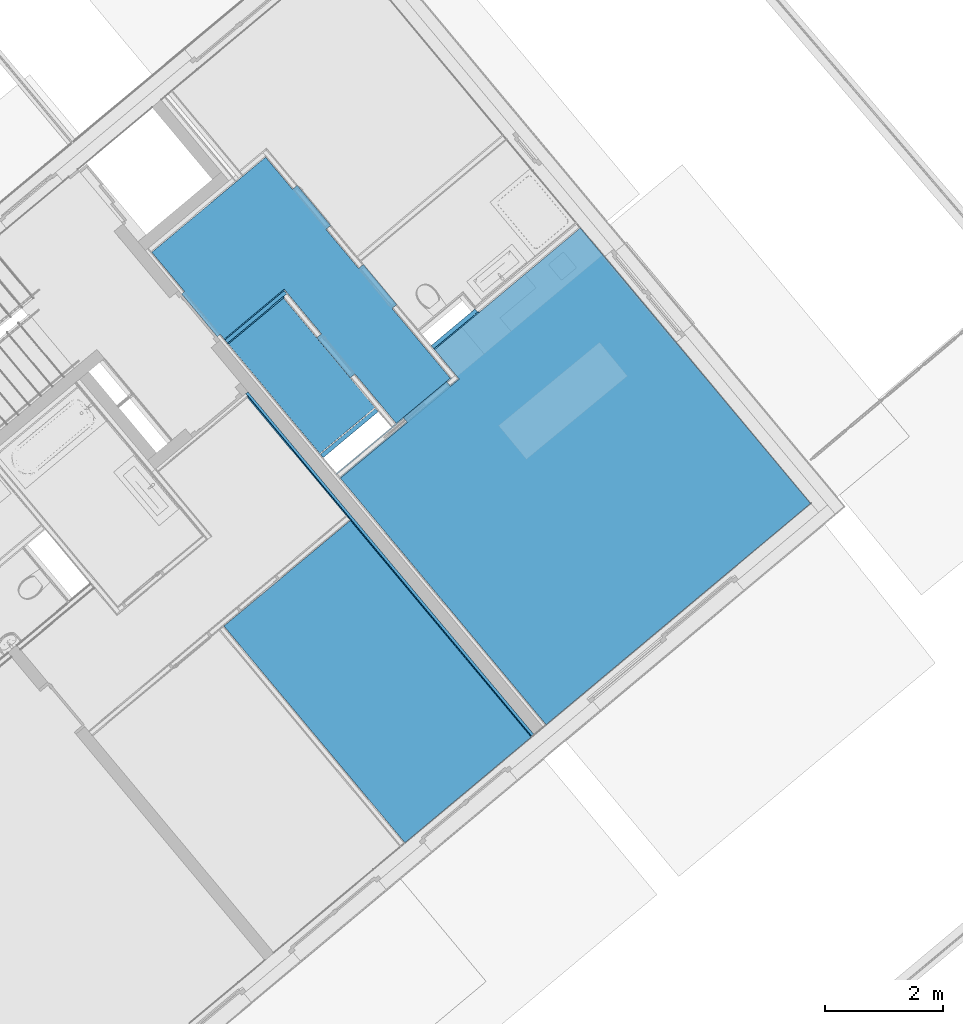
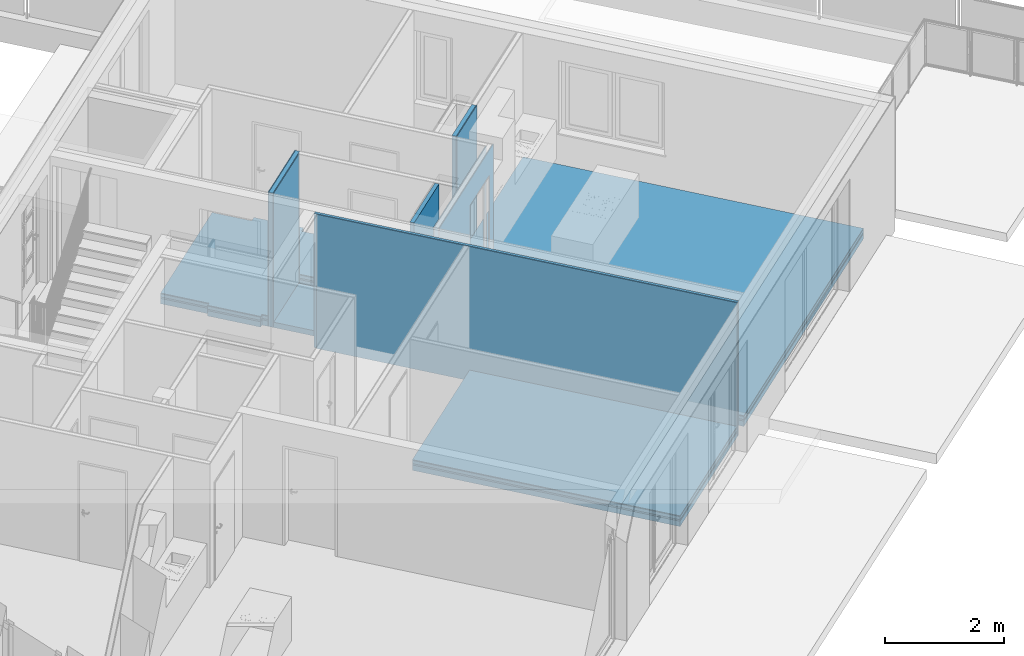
# One storey, part 37 of 75: 21 building element parts, 1 opening, 9 elements without a shape of their own, plus 2 elements that do not belong to this part.
"""IFC4 building model written with IfcOpenShell, lengths in metres."""

from ifc_helpers import new_model, entity, si_unit, converted_unit, derived_unit, direction, frame, origin_with_axes, place, context, subcontext, project, spatial, polygons, material, type_object, element, aggregate, save


model = new_model("IFC4")

# Units and contexts
model_context = context("Model", 3, precision=1e-05, world=origin_with_axes(), true_north=direction((0.0, 1.0)))
body_context = subcontext(model_context, "Body", "Model", "MODEL_VIEW")
ifc_project = project(units=[si_unit("LENGTHUNIT", "METRE"), si_unit("AREAUNIT", "SQUARE_METRE"), si_unit("VOLUMEUNIT", "CUBIC_METRE"), converted_unit("PLANEANGLEUNIT", "DEGREE", entity("IfcPlaneAngleMeasure", 0.0174532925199), si_unit("PLANEANGLEUNIT", "RADIAN"), dimensions=[0, 0, 0, 0, 0, 0, 0]), converted_unit("TIMEUNIT", "Year", entity("IfcTimeMeasure", 31556926.0), si_unit("TIMEUNIT", "SECOND"), dimensions=[0, 0, 1, 0, 0, 0, 0]), si_unit("MASSUNIT", "GRAM", prefix="KILO"), si_unit("THERMODYNAMICTEMPERATUREUNIT", "DEGREE_CELSIUS"), si_unit("LUMINOUSINTENSITYUNIT", "LUMEN"), si_unit("ENERGYUNIT", "JOULE", prefix="MEGA"), derived_unit("THERMALCONDUCTANCEUNIT", [(si_unit("POWERUNIT", "WATT"), 1), (si_unit("LENGTHUNIT", "METRE"), -1), (si_unit("THERMODYNAMICTEMPERATUREUNIT", "KELVIN"), -1)]), derived_unit("SPECIFICHEATCAPACITYUNIT", [(si_unit("ENERGYUNIT", "JOULE"), 1), (si_unit("MASSUNIT", "GRAM", prefix="KILO"), -1), (si_unit("THERMODYNAMICTEMPERATUREUNIT", "KELVIN"), -1)]), derived_unit("MASSDENSITYUNIT", [(si_unit("MASSUNIT", "GRAM", prefix="KILO"), 1), (si_unit("VOLUMEUNIT", "CUBIC_METRE"), -1)])], contexts=[model_context])

# Site, building, storey
site_placement = place(None, frame((-0.00153261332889, -0.00661245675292, 0.0), z_axis=(0.0, 0.0, 1.0), x_axis=(1.0, 0.0, 0.0)))
site = spatial("IfcSite", under=ifc_project, at=site_placement, Name="Gelände", CompositionType="ELEMENT")
building_placement = place(site_placement, origin_with_axes())
building = spatial("IfcBuilding", under=site, at=building_placement, Name="Gebäude", CompositionType="ELEMENT")
storey_placement = place(building_placement, frame((0.0, 0.0, -0.22), z_axis=(0.0, 0.0, 1.0), x_axis=(1.0, 0.0, 0.0)))
storey = spatial("IfcBuildingStorey", under=building, at=storey_placement, Name="EG", CompositionType="ELEMENT", Elevation=-0.22)

# Wall, building element parts
wall_type_1 = type_object("IfcWallType", Name="LB 6,5 cm einfach Vorsatzschale 65", PredefinedType="NOTDEFINED")
wall_1_placement = place(storey_placement, frame((3.22700750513, 22.1386079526, 0.0), z_axis=(0.0, 0.0, 1.0), x_axis=(0.640845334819, -0.767670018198, 0.0)))
wall_1 = element("IfcWall", 1, at=wall_1_placement, inside=storey, type_object=wall_type_1, Name="Wand-005", PredefinedType="NOTDEFINED")
ifc_material_1 = material(Name="Mineralwolle weich")
building_element_part_1_placement = place(wall_1_placement, origin_with_axes())
building_element_part_1 = element("IfcBuildingElementPart", 2, at=building_element_part_1_placement, material=ifc_material_1, Name="Mineralwolle weich", PredefinedType="NOTDEFINED", context=body_context, shape_type="Tessellation", body=[
    polygons([(-0.0650000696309, 0.065, 2.76), (7.53296611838, 0.065, 2.76), (7.53296611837, 0.065, 0.0), (-0.0650000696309, 0.065, 0.0), (7.5330224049, 0.015, 2.76), (-0.0650000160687, 0.015, 2.76), (7.53302240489, 0.015, 0.0), (-0.0650000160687, 0.015, 0.0)], [[[1, 2, 3, 4]], [[5, 2, 1, 6]], [[2, 5, 7, 3]], [[4, 3, 7, 8]], [[6, 1, 4, 8]], [[5, 6, 8, 7]]], closed=True),
])
ifc_material_2 = material(Name="Gipskarton")
building_element_part_2_placement = place(wall_1_placement, origin_with_axes())
building_element_part_2 = element("IfcBuildingElementPart", 3, at=building_element_part_2_placement, material=ifc_material_2, Name="Gipskarton", PredefinedType="NOTDEFINED", context=body_context, shape_type="Tessellation", body=[
    polygons([(-0.0150000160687, 0.015, 2.76), (7.5330224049, 0.015, 2.76), (7.53302240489, 0.015, 0.0), (-0.0150000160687, 0.015, 0.0), (7.53303929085, 0.0, 2.76), (-0.015, 0.0, 2.76), (7.53303929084, 0.0, 0.0), (-0.015, 0.0, 0.0)], [[[1, 2, 3, 4]], [[5, 2, 1, 6]], [[2, 5, 7, 3]], [[4, 3, 7, 8]], [[6, 1, 4, 8]], [[5, 6, 8, 7]]], closed=True),
])
aggregate(wall_1, [building_element_part_1, building_element_part_2])

wall_type_2 = type_object("IfcWallType", Name="LB 9,0 cm einfache Vorsatzschale  90", PredefinedType="NOTDEFINED")
wall_2_placement = place(storey_placement, frame((6.35108165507, 23.0169179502, 0.0), z_axis=(0.0, 0.0, 1.0), x_axis=(0.767365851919, 0.641209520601, 0.0)))
wall_2 = element("IfcWall", 4, at=wall_2_placement, inside=storey, type_object=wall_type_2, Name="Wand-006", PredefinedType="NOTDEFINED")
building_element_part_3_placement = place(wall_2_placement, origin_with_axes())
building_element_part_3 = element("IfcBuildingElementPart", 5, at=building_element_part_3_placement, material=ifc_material_1, Name="Mineralwolle weich", PredefinedType="NOTDEFINED", context=body_context, shape_type="Tessellation", body=[
    polygons([(0.971380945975, 0.0, 2.76), (0.971201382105, -0.075, 2.76), (0.971201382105, -0.075, 0.0), (0.971380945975, 0.0, 0.0), (0.0, -0.075, 2.76), (0.896380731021, 0.0, 2.76), (0.0, 0.0, 2.76), (0.0, -0.075, 0.0), (0.0, 0.0, 0.0)], [[[1, 2, 3, 4]], [[5, 2, 1, 6, 7]], [[2, 5, 8, 3]], [[4, 3, 8, 9]], [[6, 1, 4, 9, 7]], [[5, 7, 9, 8]]], closed=True),
])
building_element_part_4_placement = place(wall_2_placement, origin_with_axes())
building_element_part_4 = element("IfcBuildingElementPart", 6, at=building_element_part_4_placement, material=ifc_material_2, Name="Gipskarton", PredefinedType="NOTDEFINED", context=body_context, shape_type="Tessellation", body=[
    polygons([(0.986201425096, -0.075, 2.76), (0.986165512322, -0.09, 2.76), (0.986165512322, -0.09, 0.0), (0.986201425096, -0.075, 0.0), (0.0, -0.09, 2.76), (0.0, -0.075, 2.76), (0.0, -0.09, 0.0), (0.0, -0.075, 0.0)], [[[1, 2, 3, 4]], [[5, 2, 1, 6]], [[2, 5, 7, 3]], [[4, 3, 7, 8]], [[6, 1, 4, 8]], [[5, 6, 8, 7]]], closed=True),
])
aggregate(wall_2, [building_element_part_3, building_element_part_4])

# Wall, opening, building element parts
wall_type_3 = type_object("IfcWallType", Name="IW LB 01 Leichtbautrennwand einfach 10,5 cm 105", PredefinedType="NOTDEFINED")
wall_3_placement = place(storey_placement, frame((4.75634479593, 20.7201278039, 0.0), z_axis=(0.0, 0.0, 1.0), x_axis=(0.767768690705, 0.640727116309, 0.0)))
wall_3 = element("IfcWall", 7, at=wall_3_placement, inside=storey, type_object=wall_type_3, Name="Wand-012", PredefinedType="NOTDEFINED")
opening_placement = place(wall_3_placement, frame((2.0266659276, 0.0, 0.22), z_axis=(0.0, 0.0, 1.0), x_axis=(1.0, 0.0, 0.0)))
element("IfcOpeningElement", 8, at=opening_placement, cuts=wall_3, Name="Tür-001", context=body_context, identifier="Reference", shape_type="Tessellation", body=[
    polygons([(-0.48, -1.32747549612, -0.22), (-0.48, -1.32747549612, 2.03), (-0.48, 1.43247549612, 2.03), (-0.48, 1.43247549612, -0.22), (-0.48, 0.09, 2.0), (-0.48, 0.015, 2.0), (-0.48, 0.015, 0.0), (-0.48, 0.09, 0.0), (0.48, -1.32747549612, -0.22), (0.48, -1.32747549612, 2.03), (0.48, 1.43247549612, 2.03), (0.48, 1.43247549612, -0.22), (-1.44, 0.09, 2.0), (-1.44, 0.015, 2.0), (-1.44, 0.015, 0.0), (-1.44, 0.09, 0.0)], [[[1, 2, 3, 4], [5, 6, 7, 8]], [[1, 9, 10, 2]], [[2, 10, 11, 3]], [[11, 12, 4, 3]], [[9, 1, 4, 12]], [[6, 5, 13, 14]], [[7, 6, 14, 15]], [[8, 7, 15, 16]], [[5, 8, 16, 13]], [[10, 9, 12, 11]], [[14, 13, 16, 15]]], closed=True),
])
building_element_part_5_placement = place(wall_3_placement, origin_with_axes())
building_element_part_5 = element("IfcBuildingElementPart", 9, at=building_element_part_5_placement, material=ifc_material_2, Name="Gipskarton", PredefinedType="NOTDEFINED", context=body_context, shape_type="Tessellation", body=[
    polygons([(1.5466659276, 0.09, 0.22), (1.5466659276, 0.0899999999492, 2.25), (2.5066659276, 0.0899999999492, 2.25), (2.5066659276, 0.09, 0.22), (2.50666590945, 0.0899999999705, 0.0), (2.6064142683, 0.09, 0.0), (2.6064142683, 0.09, 2.76), (0.0649861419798, 0.0899999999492, 2.76), (0.0649861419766, 0.0899999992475, 0.0), (1.5466659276, 0.0899999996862, 0.0), (1.5466659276, 0.104999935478, 0.22), (1.5466659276, 0.105, 2.25), (2.5066659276, 0.105, 2.25), (2.5066659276, 0.104999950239, 0.22), (2.5066659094, 0.104999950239, 0.0), (2.60640484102, 0.105, 0.0), (2.60640484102, 0.105, 2.76), (1.28733376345, 0.105, 2.76), (0.0649838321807, 0.105, 2.76), (0.0649838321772, 0.104999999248, 0.0), (1.5466659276, 0.104999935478, 0.0)], [[[1, 2, 3, 4, 5, 6, 7, 8, 9, 10]], [[2, 1, 11, 12]], [[3, 2, 12, 13]], [[4, 3, 13, 14]], [[4, 14, 15, 5]], [[15, 16, 6, 5]], [[7, 6, 16, 17]], [[8, 7, 17, 18, 19]], [[19, 20, 9, 8]], [[10, 9, 20, 21]], [[11, 1, 10, 21]], [[12, 11, 21, 20, 19, 18, 17, 16, 15, 14, 13]]], closed=True),
])
building_element_part_6_placement = place(wall_3_placement, origin_with_axes())
building_element_part_6 = element("IfcBuildingElementPart", 10, at=building_element_part_6_placement, material=ifc_material_2, Name="Gipskarton", PredefinedType="NOTDEFINED", context=body_context, shape_type="Tessellation", body=[
    polygons([(1.5466659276, 0.0, 0.22), (1.5466659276, 0.0, 2.25), (2.5066659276, 0.0, 2.25), (2.5066659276, 0.0, 0.22), (2.50666590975, 0.0, 0.0), (2.6964708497, 0.0, 0.0), (2.6964708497, 0.0, 2.76), (0.0650000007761, 0.0, 2.76), (0.0650000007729, -7.52478968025e-10, 0.0), (1.5466659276, -3.28791216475e-10, 0.0), (1.5466659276, 0.0149999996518, 0.22), (1.5466659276, 0.0149999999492, 2.25), (2.5066659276, 0.0149999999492, 2.25), (2.5066659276, 0.0149999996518, 0.22), (2.5066659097, 0.0149999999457, 0.0), (2.69646142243, 0.015, 0.0), (2.69646142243, 0.015, 2.76), (0.0649976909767, 0.0149999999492, 2.76), (0.0649976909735, 0.0149999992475, 0.0), (1.5466659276, 0.0149999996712, 0.0)], [[[1, 2, 3, 4, 5, 6, 7, 8, 9, 10]], [[2, 1, 11, 12]], [[3, 2, 12, 13]], [[4, 3, 13, 14]], [[4, 14, 15, 5]], [[15, 16, 6, 5]], [[7, 6, 16, 17]], [[8, 7, 17, 18]], [[18, 19, 9, 8]], [[10, 9, 19, 20]], [[11, 1, 10, 20]], [[12, 11, 20, 19, 18, 17, 16, 15, 14, 13]]], closed=True),
])
aggregate(wall_3, [building_element_part_5, building_element_part_6])

# Wall, building element parts
wall_4_placement = place(storey_placement, frame((2.84969161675, 23.0041117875, 0.0), z_axis=(0.0, 0.0, 1.0), x_axis=(0.767365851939, 0.641209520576, 0.0)))
wall_4 = element("IfcWall", 11, at=wall_4_placement, inside=storey, type_object=wall_type_3, Name="Wand-012", PredefinedType="NOTDEFINED")
building_element_part_7_placement = place(wall_4_placement, origin_with_axes())
building_element_part_7 = element("IfcBuildingElementPart", 12, at=building_element_part_7_placement, material=ifc_material_2, Name="Gipskarton", PredefinedType="NOTDEFINED", context=body_context, shape_type="Tessellation", body=[
    polygons([(1.3909877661, 0.105, 2.76), (1.3909877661, 0.09, 2.76), (1.3909877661, 0.09, 0.0), (1.3909877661, 0.105, 0.0), (0.0650427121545, 0.0900000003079, 2.76), (0.0650498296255, 0.105000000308, 2.76), (0.0650427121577, 0.0900000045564, 0.0), (0.0650498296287, 0.105000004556, 0.0)], [[[1, 2, 3, 4]], [[5, 2, 1, 6]], [[2, 5, 7, 3]], [[3, 7, 8, 4]], [[6, 1, 4, 8]], [[5, 6, 8, 7]]], closed=True),
])
building_element_part_8_placement = place(wall_4_placement, origin_with_axes())
building_element_part_8 = element("IfcBuildingElementPart", 13, at=building_element_part_8_placement, material=ifc_material_1, Name="Mineralwolle weich", PredefinedType="NOTDEFINED", context=body_context, shape_type="Tessellation", body=[
    polygons([(1.3759877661, 0.09, 2.76), (1.3759877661, 0.015, 2.76), (1.3759877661, 0.015, 0.0), (1.3759877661, 0.09, 0.0), (0.0650071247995, 0.0150000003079, 2.76), (0.0650427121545, 0.0900000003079, 2.76), (0.0650071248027, 0.0150000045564, 0.0), (0.0650427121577, 0.0900000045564, 0.0)], [[[1, 2, 3, 4]], [[5, 2, 1, 6]], [[2, 5, 7, 3]], [[3, 7, 8, 4]], [[6, 1, 4, 8]], [[5, 6, 8, 7]]], closed=True),
])
building_element_part_9_placement = place(wall_4_placement, origin_with_axes())
building_element_part_9 = element("IfcBuildingElementPart", 14, at=building_element_part_9_placement, material=ifc_material_2, Name="Gipskarton", PredefinedType="NOTDEFINED", context=body_context, shape_type="Tessellation", body=[
    polygons([(1.3009877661, 0.015, 2.76), (1.3009877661, 0.0, 2.76), (1.3009877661, 0.0, 0.0), (1.3009877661, 0.015, 0.0), (0.0650000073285, 3.07867509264e-10, 2.76), (0.0650071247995, 0.0150000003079, 2.76), (0.0650000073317, 4.55641746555e-09, 0.0), (0.0650071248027, 0.0150000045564, 0.0)], [[[1, 2, 3, 4]], [[5, 2, 1, 6]], [[2, 5, 7, 3]], [[3, 7, 8, 4]], [[6, 1, 4, 8]], [[5, 6, 8, 7]]], closed=True),
])
aggregate(wall_4, [building_element_part_7, building_element_part_8, building_element_part_9])

# Wall, building element part
wall_5_placement = place(storey_placement, frame((4.46491081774, 21.0692371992, 0.0), z_axis=(0.0, 0.0, 1.0), x_axis=(0.767365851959, 0.641209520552, 0.0)))
wall_5 = element("IfcWall", 15, at=wall_5_placement, inside=storey, type_object=wall_type_2, Name="Wand-006", PredefinedType="NOTDEFINED")
building_element_part_10_placement = place(wall_5_placement, origin_with_axes())
building_element_part_10 = element("IfcBuildingElementPart", 16, at=building_element_part_10_placement, material=ifc_material_1, Name="Mineralwolle weich", PredefinedType="NOTDEFINED", context=body_context, shape_type="Tessellation", body=[
    polygons([(1.28718371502, 0.075, 2.76), (1.28718371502, 0.0, 2.76), (1.28718371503, 0.0, 0.0), (1.28718371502, 0.075, 0.0), (0.0650000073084, 0.0, 2.76), (0.0650355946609, 0.0750000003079, 2.76), (0.065000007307, 4.55642101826e-09, 0.0), (0.0650355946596, 0.0750000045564, 0.0)], [[[1, 2, 3, 4]], [[5, 2, 1, 6]], [[2, 5, 7, 3]], [[3, 7, 8, 4]], [[6, 1, 4, 8]], [[5, 6, 8, 7]]], closed=True),
])
aggregate(wall_5, [building_element_part_10])

# Covering, building element parts
covering_type_1 = type_object("IfcCoveringType", Name="DE 01 Decke Wohnung/Wohnung Parkett 220", PredefinedType="NOTDEFINED")
covering_1_placement = place(storey_placement, frame((4.8062497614, 20.7617750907, 0.22), z_axis=(0.0, 0.0, 1.0), x_axis=(1.0, 0.0, 0.0)))
covering_1 = element("IfcCovering", 17, at=covering_1_placement, inside=storey, type_object=covering_type_1, Name="Decke-005", PredefinedType="NOTDEFINED")
ifc_material_3 = material(Name="Parkett")
building_element_part_11_placement = place(covering_1_placement, origin_with_axes())
building_element_part_11 = element("IfcBuildingElementPart", 18, at=building_element_part_11_placement, material=ifc_material_3, Name="Parkett", PredefinedType="NOTDEFINED", context=body_context, shape_type="Tessellation", body=[
    polygons([(0.0, 0.0, -0.015), (3.5013638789, -4.19429140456, -0.015), (3.5013638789, -4.19429140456, 0.0), (0.0, 0.0, 0.0), (1.13757667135, 0.94934347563, -0.015), (1.07030040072, 1.02995917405, -0.015), (1.80735832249, 1.64505720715, -0.015), (1.87463459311, 1.56444150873, -0.015), (2.02036092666, 1.68605464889, -0.015), (1.60254077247, 2.18607990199, -0.015), (4.08241896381, 4.25826166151, -0.015), (8.00008249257, -0.43019226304, -0.015), (8.00008249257, -0.43019226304, 0.0), (1.13757667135, 0.94934347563, 0.0), (4.08241896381, 4.25826166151, 0.0), (1.60254077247, 2.18607990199, 0.0), (2.02036092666, 1.68605464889, 0.0), (1.87463459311, 1.56444150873, 0.0), (1.80735832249, 1.64505720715, 0.0), (1.07030040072, 1.02995917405, 0.0)], [[[1, 2, 3, 4]], [[2, 1, 5, 6, 7, 8, 9, 10, 11, 12]], [[2, 12, 13, 3]], [[14, 4, 3, 13, 15, 16, 17, 18, 19, 20]], [[5, 1, 4, 14]], [[6, 5, 14, 20]], [[7, 6, 20, 19]], [[8, 7, 19, 18]], [[9, 8, 18, 17]], [[10, 9, 17, 16]], [[11, 10, 16, 15]], [[12, 11, 15, 13]]], closed=True),
])
ifc_material_4 = material(Name="Estrich")
building_element_part_12_placement = place(covering_1_placement, origin_with_axes())
building_element_part_12 = element("IfcBuildingElementPart", 19, at=building_element_part_12_placement, material=ifc_material_4, Name="Estrich", PredefinedType="NOTDEFINED", context=body_context, shape_type="Tessellation", body=[
    polygons([(0.0, 0.0, -0.08), (3.5013638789, -4.19429140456, -0.08), (3.5013638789, -4.19429140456, -0.015), (0.0, 0.0, -0.015), (1.13757667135, 0.94934347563, -0.08), (1.07030040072, 1.02995917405, -0.08), (1.80735832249, 1.64505720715, -0.08), (1.87463459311, 1.56444150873, -0.08), (2.02036092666, 1.68605464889, -0.08), (1.60254077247, 2.18607990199, -0.08), (4.08241896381, 4.25826166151, -0.08), (8.00008249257, -0.43019226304, -0.08), (8.00008249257, -0.43019226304, -0.015), (1.13757667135, 0.94934347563, -0.015), (4.08241896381, 4.25826166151, -0.015), (1.60254077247, 2.18607990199, -0.015), (2.02036092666, 1.68605464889, -0.015), (1.87463459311, 1.56444150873, -0.015), (1.80735832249, 1.64505720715, -0.015), (1.07030040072, 1.02995917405, -0.015)], [[[1, 2, 3, 4]], [[2, 1, 5, 6, 7, 8, 9, 10, 11, 12]], [[2, 12, 13, 3]], [[14, 4, 3, 13, 15, 16, 17, 18, 19, 20]], [[5, 1, 4, 14]], [[6, 5, 14, 20]], [[7, 6, 20, 19]], [[8, 7, 19, 18]], [[9, 8, 18, 17]], [[10, 9, 17, 16]], [[11, 10, 16, 15]], [[12, 11, 15, 13]]], closed=True),
])
ifc_material_5 = material(Name="Trittschalldämmung")
building_element_part_13_placement = place(covering_1_placement, origin_with_axes())
building_element_part_13 = element("IfcBuildingElementPart", 20, at=building_element_part_13_placement, material=ifc_material_5, Name="Trittschalldämmung", PredefinedType="NOTDEFINED", context=body_context, shape_type="Tessellation", body=[
    polygons([(0.0, 0.0, -0.11), (3.5013638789, -4.19429140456, -0.11), (3.5013638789, -4.19429140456, -0.08), (0.0, 0.0, -0.08), (1.13757667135, 0.94934347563, -0.11), (1.07030040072, 1.02995917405, -0.11), (1.80735832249, 1.64505720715, -0.11), (1.87463459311, 1.56444150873, -0.11), (2.02036092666, 1.68605464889, -0.11), (1.60254077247, 2.18607990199, -0.11), (4.08241896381, 4.25826166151, -0.11), (8.00008249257, -0.43019226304, -0.11), (8.00008249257, -0.43019226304, -0.08), (1.13757667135, 0.94934347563, -0.08), (4.08241896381, 4.25826166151, -0.08), (1.60254077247, 2.18607990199, -0.08), (2.02036092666, 1.68605464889, -0.08), (1.87463459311, 1.56444150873, -0.08), (1.80735832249, 1.64505720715, -0.08), (1.07030040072, 1.02995917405, -0.08)], [[[1, 2, 3, 4]], [[2, 1, 5, 6, 7, 8, 9, 10, 11, 12]], [[2, 12, 13, 3]], [[14, 4, 3, 13, 15, 16, 17, 18, 19, 20]], [[5, 1, 4, 14]], [[6, 5, 14, 20]], [[7, 6, 20, 19]], [[8, 7, 19, 18]], [[9, 8, 18, 17]], [[10, 9, 17, 16]], [[11, 10, 16, 15]], [[12, 11, 15, 13]]], closed=True),
])
ifc_material_6 = material(Name="Schüttung")
building_element_part_14_placement = place(covering_1_placement, origin_with_axes())
building_element_part_14 = element("IfcBuildingElementPart", 21, at=building_element_part_14_placement, material=ifc_material_6, Name="Schüttung", PredefinedType="NOTDEFINED", context=body_context, shape_type="Tessellation", body=[
    polygons([(0.0, 0.0, -0.11), (0.0, 0.0, -0.22), (3.5013638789, -4.19429140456, -0.22), (3.5013638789, -4.19429140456, -0.11), (1.13757667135, 0.94934347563, -0.11), (1.13757667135, 0.94934347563, -0.22), (1.07030040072, 1.02995917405, -0.22), (1.80735832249, 1.64505720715, -0.22), (1.87463459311, 1.56444150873, -0.22), (2.02036092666, 1.68605464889, -0.22), (1.60254077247, 2.18607990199, -0.22), (4.08241896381, 4.25826166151, -0.22), (8.00008249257, -0.43019226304, -0.22), (8.00008249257, -0.43019226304, -0.11), (4.08241896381, 4.25826166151, -0.11), (1.60254077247, 2.18607990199, -0.11), (2.02036092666, 1.68605464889, -0.11), (1.87463459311, 1.56444150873, -0.11), (1.80735832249, 1.64505720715, -0.11), (1.07030040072, 1.02995917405, -0.11)], [[[1, 2, 3, 4]], [[5, 6, 2, 1]], [[3, 2, 6, 7, 8, 9, 10, 11, 12, 13]], [[4, 3, 13, 14]], [[5, 1, 4, 14, 15, 16, 17, 18, 19, 20]], [[20, 7, 6, 5]], [[19, 8, 7, 20]], [[18, 9, 8, 19]], [[17, 10, 9, 18]], [[16, 11, 10, 17]], [[15, 12, 11, 16]], [[14, 13, 12, 15]]], closed=True),
])
aggregate(covering_1, [building_element_part_11, building_element_part_12, building_element_part_13, building_element_part_14])

covering_2_placement = place(storey_placement, frame((2.82455205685, 18.2460213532, 0.22), z_axis=(0.0, 0.0, 1.0), x_axis=(1.0, 0.0, 0.0)))
covering_2 = element("IfcCovering", 22, at=covering_2_placement, inside=storey, type_object=covering_type_1, Name="Decke-006", PredefinedType="NOTDEFINED")
building_element_part_15_placement = place(covering_2_placement, origin_with_axes())
building_element_part_15 = element("IfcBuildingElementPart", 23, at=building_element_part_15_placement, material=ifc_material_3, Name="Parkett", PredefinedType="NOTDEFINED", context=body_context, shape_type="Tessellation", body=[
    polygons([(3.08157788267, -3.68787044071, -0.015), (3.08157788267, -3.68787044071, 0.0), (0.0, 0.0, 0.0), (0.0, 0.0, -0.015), (5.22996853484, -1.89030181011, -0.015), (5.22996853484, -1.89030181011, 0.0), (2.15130959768, 1.79763041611, 0.0), (2.15130959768, 1.79763041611, -0.015)], [[[1, 2, 3, 4]], [[5, 6, 2, 1]], [[3, 2, 6, 7]], [[4, 3, 7, 8]], [[4, 8, 5, 1]], [[8, 7, 6, 5]]], closed=True),
])
building_element_part_16_placement = place(covering_2_placement, origin_with_axes())
building_element_part_16 = element("IfcBuildingElementPart", 24, at=building_element_part_16_placement, material=ifc_material_4, Name="Estrich", PredefinedType="NOTDEFINED", context=body_context, shape_type="Tessellation", body=[
    polygons([(3.08157788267, -3.68787044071, -0.08), (3.08157788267, -3.68787044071, -0.015), (0.0, 0.0, -0.015), (0.0, 0.0, -0.08), (5.22996853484, -1.89030181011, -0.08), (5.22996853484, -1.89030181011, -0.015), (2.15130959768, 1.79763041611, -0.015), (2.15130959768, 1.79763041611, -0.08)], [[[1, 2, 3, 4]], [[5, 6, 2, 1]], [[3, 2, 6, 7]], [[4, 3, 7, 8]], [[4, 8, 5, 1]], [[8, 7, 6, 5]]], closed=True),
])
building_element_part_17_placement = place(covering_2_placement, origin_with_axes())
building_element_part_17 = element("IfcBuildingElementPart", 25, at=building_element_part_17_placement, material=ifc_material_5, Name="Trittschalldämmung", PredefinedType="NOTDEFINED", context=body_context, shape_type="Tessellation", body=[
    polygons([(3.08157788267, -3.68787044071, -0.11), (3.08157788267, -3.68787044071, -0.08), (0.0, 0.0, -0.08), (0.0, 0.0, -0.11), (5.22996853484, -1.89030181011, -0.11), (5.22996853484, -1.89030181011, -0.08), (2.15130959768, 1.79763041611, -0.08), (2.15130959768, 1.79763041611, -0.11)], [[[1, 2, 3, 4]], [[5, 6, 2, 1]], [[3, 2, 6, 7]], [[4, 3, 7, 8]], [[4, 8, 5, 1]], [[8, 7, 6, 5]]], closed=True),
])
building_element_part_18_placement = place(covering_2_placement, origin_with_axes())
building_element_part_18 = element("IfcBuildingElementPart", 26, at=building_element_part_18_placement, material=ifc_material_6, Name="Schüttung", PredefinedType="NOTDEFINED", context=body_context, shape_type="Tessellation", body=[
    polygons([(0.0, 0.0, -0.22), (3.08157788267, -3.68787044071, -0.22), (3.08157788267, -3.68787044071, -0.11), (0.0, 0.0, -0.11), (2.15130959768, 1.79763041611, -0.22), (5.22996853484, -1.89030181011, -0.22), (5.22996853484, -1.89030181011, -0.11), (2.15130959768, 1.79763041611, -0.11)], [[[1, 2, 3, 4]], [[1, 5, 6, 2]], [[2, 6, 7, 3]], [[4, 3, 7, 8]], [[5, 1, 4, 8]], [[6, 5, 8, 7]]], closed=True),
])
aggregate(covering_2, [building_element_part_15, building_element_part_16, building_element_part_17, building_element_part_18])

covering_type_2 = type_object("IfcCoveringType", Name="DE 01 Decke Wohnung/Wohnung Fließen 220", PredefinedType="NOTDEFINED")
covering_3_placement = place(storey_placement, frame((3.53540854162, 26.2228144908, 0.22), z_axis=(0.0, 0.0, 1.0), x_axis=(1.0, 0.0, 0.0)))
covering_3 = element("IfcCovering", 27, at=covering_3_placement, inside=storey, type_object=covering_type_2, Name="Decke-001", PredefinedType="NOTDEFINED")
ifc_material_7 = material(Name="Fliesen")
building_element_part_19_placement = place(covering_3_placement, origin_with_axes())
building_element_part_19 = element("IfcBuildingElementPart", 28, at=building_element_part_19_placement, material=ifc_material_7, Name="Fliesen", PredefinedType="NOTDEFINED", context=body_context, shape_type="Tessellation", body=[
    polygons([(0.0, 0.0, -0.015), (-1.93687654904, -1.61850734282, -0.015), (-1.93687654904, -1.61850734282, 0.0), (0.0, 0.0, 0.0), (0.456545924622, -0.546370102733, -0.015), (0.53711933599, -0.479043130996, -0.015), (1.10779579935, -1.16199873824, -0.015), (1.02722238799, -1.22932570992, -0.015), (1.58063062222, -1.89161567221, -0.015), (1.66120403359, -1.8242886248, -0.015), (2.23188049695, -2.50724423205, -0.015), (2.15130708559, -2.57457127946, -0.015), (3.1432594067, -3.76168765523, -0.015), (2.22264850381, -4.52996639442, -0.015), (1.5196247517, -3.68862254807, -0.015), (1.43905209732, -3.75594898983, -0.015), (0.86837563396, -3.07299338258, -0.015), (0.948949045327, -3.00566633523, -0.015), (0.314352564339, -2.24621466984, -0.015), (-0.703126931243, -3.09641874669, -0.015), (-0.771194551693, -3.01488031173, -0.015), (-0.821093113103, -3.05653529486, -0.015), (-1.4298961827, -2.32724879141, -0.015), (-1.37999762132, -2.28559380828, -0.015), (-1.37999762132, -2.28559380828, 0.0), (0.456545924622, -0.546370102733, 0.0), (-1.4298961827, -2.32724879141, 0.0), (-0.821093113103, -3.05653529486, 0.0), (-0.771194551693, -3.01488031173, 0.0), (-0.703126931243, -3.09641874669, 0.0), (0.314352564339, -2.24621466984, 0.0), (0.948949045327, -3.00566633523, 0.0), (0.86837563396, -3.07299338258, 0.0), (1.43905209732, -3.75594898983, 0.0), (1.5196247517, -3.68862254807, 0.0), (2.22264850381, -4.52996639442, 0.0), (3.1432594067, -3.76168765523, 0.0), (2.15130708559, -2.57457127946, 0.0), (2.23188049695, -2.50724423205, 0.0), (1.66120403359, -1.8242886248, 0.0), (1.58063062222, -1.89161567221, 0.0), (1.02722238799, -1.22932570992, 0.0), (1.10779579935, -1.16199873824, 0.0), (0.53711933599, -0.479043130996, 0.0)], [[[1, 2, 3, 4]], [[2, 1, 5, 6, 7, 8, 9, 10, 11, 12, 13, 14, 15, 16, 17, 18, 19, 20, 21, 22, 23, 24]], [[2, 24, 25, 3]], [[26, 4, 3, 25, 27, 28, 29, 30, 31, 32, 33, 34, 35, 36, 37, 38, 39, 40, 41, 42, 43, 44]], [[5, 1, 4, 26]], [[6, 5, 26, 44]], [[7, 6, 44, 43]], [[8, 7, 43, 42]], [[9, 8, 42, 41]], [[10, 9, 41, 40]], [[11, 10, 40, 39]], [[12, 11, 39, 38]], [[13, 12, 38, 37]], [[14, 13, 37, 36]], [[15, 14, 36, 35]], [[16, 15, 35, 34]], [[17, 16, 34, 33]], [[18, 17, 33, 32]], [[19, 18, 32, 31]], [[20, 19, 31, 30]], [[21, 20, 30, 29]], [[22, 21, 29, 28]], [[23, 22, 28, 27]], [[24, 23, 27, 25]]], closed=True),
])
building_element_part_20_placement = place(covering_3_placement, origin_with_axes())
building_element_part_20 = element("IfcBuildingElementPart", 29, at=building_element_part_20_placement, material=ifc_material_4, Name="Estrich", PredefinedType="NOTDEFINED", context=body_context, shape_type="Tessellation", body=[
    polygons([(0.0, 0.0, -0.08), (-1.93687654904, -1.61850734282, -0.08), (-1.93687654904, -1.61850734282, -0.015), (0.0, 0.0, -0.015), (0.456545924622, -0.546370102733, -0.08), (0.53711933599, -0.479043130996, -0.08), (1.10779579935, -1.16199873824, -0.08), (1.02722238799, -1.22932570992, -0.08), (1.58063062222, -1.89161567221, -0.08), (1.66120403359, -1.8242886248, -0.08), (2.23188049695, -2.50724423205, -0.08), (2.15130708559, -2.57457127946, -0.08), (3.1432594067, -3.76168765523, -0.08), (2.22264850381, -4.52996639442, -0.08), (1.5196247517, -3.68862254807, -0.08), (1.43905209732, -3.75594898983, -0.08), (0.86837563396, -3.07299338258, -0.08), (0.948949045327, -3.00566633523, -0.08), (0.314352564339, -2.24621466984, -0.08), (-0.703126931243, -3.09641874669, -0.08), (-0.771194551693, -3.01488031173, -0.08), (-0.821093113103, -3.05653529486, -0.08), (-1.4298961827, -2.32724879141, -0.08), (-1.37999762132, -2.28559380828, -0.08), (-1.37999762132, -2.28559380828, -0.015), (0.456545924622, -0.546370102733, -0.015), (-1.4298961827, -2.32724879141, -0.015), (-0.821093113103, -3.05653529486, -0.015), (-0.771194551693, -3.01488031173, -0.015), (-0.703126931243, -3.09641874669, -0.015), (0.314352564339, -2.24621466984, -0.015), (0.948949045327, -3.00566633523, -0.015), (0.86837563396, -3.07299338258, -0.015), (1.43905209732, -3.75594898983, -0.015), (1.5196247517, -3.68862254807, -0.015), (2.22264850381, -4.52996639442, -0.015), (3.1432594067, -3.76168765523, -0.015), (2.15130708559, -2.57457127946, -0.015), (2.23188049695, -2.50724423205, -0.015), (1.66120403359, -1.8242886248, -0.015), (1.58063062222, -1.89161567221, -0.015), (1.02722238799, -1.22932570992, -0.015), (1.10779579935, -1.16199873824, -0.015), (0.53711933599, -0.479043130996, -0.015)], [[[1, 2, 3, 4]], [[2, 1, 5, 6, 7, 8, 9, 10, 11, 12, 13, 14, 15, 16, 17, 18, 19, 20, 21, 22, 23, 24]], [[2, 24, 25, 3]], [[26, 4, 3, 25, 27, 28, 29, 30, 31, 32, 33, 34, 35, 36, 37, 38, 39, 40, 41, 42, 43, 44]], [[5, 1, 4, 26]], [[6, 5, 26, 44]], [[7, 6, 44, 43]], [[8, 7, 43, 42]], [[9, 8, 42, 41]], [[10, 9, 41, 40]], [[11, 10, 40, 39]], [[12, 11, 39, 38]], [[13, 12, 38, 37]], [[14, 13, 37, 36]], [[15, 14, 36, 35]], [[16, 15, 35, 34]], [[17, 16, 34, 33]], [[18, 17, 33, 32]], [[19, 18, 32, 31]], [[20, 19, 31, 30]], [[21, 20, 30, 29]], [[22, 21, 29, 28]], [[23, 22, 28, 27]], [[24, 23, 27, 25]]], closed=True),
])
building_element_part_21_placement = place(covering_3_placement, origin_with_axes())
building_element_part_21 = element("IfcBuildingElementPart", 30, at=building_element_part_21_placement, material=ifc_material_5, Name="Trittschalldämmung", PredefinedType="NOTDEFINED", context=body_context, shape_type="Tessellation", body=[
    polygons([(0.0, 0.0, -0.11), (-1.93687654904, -1.61850734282, -0.11), (-1.93687654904, -1.61850734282, -0.08), (0.0, 0.0, -0.08), (0.456545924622, -0.546370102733, -0.11), (0.53711933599, -0.479043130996, -0.11), (1.10779579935, -1.16199873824, -0.11), (1.02722238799, -1.22932570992, -0.11), (1.58063062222, -1.89161567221, -0.11), (1.66120403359, -1.8242886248, -0.11), (2.23188049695, -2.50724423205, -0.11), (2.15130708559, -2.57457127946, -0.11), (3.1432594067, -3.76168765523, -0.11), (2.22264850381, -4.52996639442, -0.11), (1.5196247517, -3.68862254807, -0.11), (1.43905209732, -3.75594898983, -0.11), (0.86837563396, -3.07299338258, -0.11), (0.948949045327, -3.00566633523, -0.11), (0.314352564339, -2.24621466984, -0.11), (-0.703126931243, -3.09641874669, -0.11), (-0.771194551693, -3.01488031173, -0.11), (-0.821093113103, -3.05653529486, -0.11), (-1.4298961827, -2.32724879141, -0.11), (-1.37999762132, -2.28559380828, -0.11), (-1.37999762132, -2.28559380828, -0.08), (0.456545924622, -0.546370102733, -0.08), (-1.4298961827, -2.32724879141, -0.08), (-0.821093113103, -3.05653529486, -0.08), (-0.771194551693, -3.01488031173, -0.08), (-0.703126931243, -3.09641874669, -0.08), (0.314352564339, -2.24621466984, -0.08), (0.948949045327, -3.00566633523, -0.08), (0.86837563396, -3.07299338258, -0.08), (1.43905209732, -3.75594898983, -0.08), (1.5196247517, -3.68862254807, -0.08), (2.22264850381, -4.52996639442, -0.08), (3.1432594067, -3.76168765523, -0.08), (2.15130708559, -2.57457127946, -0.08), (2.23188049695, -2.50724423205, -0.08), (1.66120403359, -1.8242886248, -0.08), (1.58063062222, -1.89161567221, -0.08), (1.02722238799, -1.22932570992, -0.08), (1.10779579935, -1.16199873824, -0.08), (0.53711933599, -0.479043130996, -0.08)], [[[1, 2, 3, 4]], [[2, 1, 5, 6, 7, 8, 9, 10, 11, 12, 13, 14, 15, 16, 17, 18, 19, 20, 21, 22, 23, 24]], [[2, 24, 25, 3]], [[26, 4, 3, 25, 27, 28, 29, 30, 31, 32, 33, 34, 35, 36, 37, 38, 39, 40, 41, 42, 43, 44]], [[5, 1, 4, 26]], [[6, 5, 26, 44]], [[7, 6, 44, 43]], [[8, 7, 43, 42]], [[9, 8, 42, 41]], [[10, 9, 41, 40]], [[11, 10, 40, 39]], [[12, 11, 39, 38]], [[13, 12, 38, 37]], [[14, 13, 37, 36]], [[15, 14, 36, 35]], [[16, 15, 35, 34]], [[17, 16, 34, 33]], [[18, 17, 33, 32]], [[19, 18, 32, 31]], [[20, 19, 31, 30]], [[21, 20, 30, 29]], [[22, 21, 29, 28]], [[23, 22, 28, 27]], [[24, 23, 27, 25]]], closed=True),
])
building_element_part_22_placement = place(covering_3_placement, origin_with_axes())
building_element_part_22 = element("IfcBuildingElementPart", 31, at=building_element_part_22_placement, material=ifc_material_6, Name="Schüttung", PredefinedType="NOTDEFINED", context=body_context, shape_type="Tessellation", body=[
    polygons([(0.0, 0.0, -0.11), (0.0, 0.0, -0.22), (-1.93687654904, -1.61850734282, -0.22), (-1.93687654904, -1.61850734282, -0.11), (0.456545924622, -0.546370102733, -0.11), (0.456545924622, -0.546370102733, -0.22), (0.53711933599, -0.479043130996, -0.22), (1.10779579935, -1.16199873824, -0.22), (1.02722238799, -1.22932570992, -0.22), (1.58063062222, -1.89161567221, -0.22), (1.66120403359, -1.8242886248, -0.22), (2.23188049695, -2.50724423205, -0.22), (2.15130708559, -2.57457127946, -0.22), (3.1432594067, -3.76168765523, -0.22), (2.22264850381, -4.52996639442, -0.22), (1.5196247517, -3.68862254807, -0.22), (1.43905209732, -3.75594898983, -0.22), (0.86837563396, -3.07299338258, -0.22), (0.948949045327, -3.00566633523, -0.22), (0.314352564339, -2.24621466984, -0.22), (-0.703126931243, -3.09641874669, -0.22), (-0.771194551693, -3.01488031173, -0.22), (-0.821093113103, -3.05653529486, -0.22), (-1.4298961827, -2.32724879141, -0.22), (-1.37999762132, -2.28559380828, -0.22), (-1.37999762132, -2.28559380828, -0.11), (-1.4298961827, -2.32724879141, -0.11), (-0.821093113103, -3.05653529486, -0.11), (-0.771194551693, -3.01488031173, -0.11), (-0.703126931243, -3.09641874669, -0.11), (0.314352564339, -2.24621466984, -0.11), (0.948949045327, -3.00566633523, -0.11), (0.86837563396, -3.07299338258, -0.11), (1.43905209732, -3.75594898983, -0.11), (1.5196247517, -3.68862254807, -0.11), (2.22264850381, -4.52996639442, -0.11), (3.1432594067, -3.76168765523, -0.11), (2.15130708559, -2.57457127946, -0.11), (2.23188049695, -2.50724423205, -0.11), (1.66120403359, -1.8242886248, -0.11), (1.58063062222, -1.89161567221, -0.11), (1.02722238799, -1.22932570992, -0.11), (1.10779579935, -1.16199873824, -0.11), (0.53711933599, -0.479043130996, -0.11)], [[[1, 2, 3, 4]], [[5, 6, 2, 1]], [[3, 2, 6, 7, 8, 9, 10, 11, 12, 13, 14, 15, 16, 17, 18, 19, 20, 21, 22, 23, 24, 25]], [[4, 3, 25, 26]], [[5, 1, 4, 26, 27, 28, 29, 30, 31, 32, 33, 34, 35, 36, 37, 38, 39, 40, 41, 42, 43, 44]], [[44, 7, 6, 5]], [[43, 8, 7, 44]], [[42, 9, 8, 43]], [[41, 10, 9, 42]], [[40, 11, 10, 41]], [[39, 12, 11, 40]], [[38, 13, 12, 39]], [[37, 14, 13, 38]], [[36, 15, 14, 37]], [[35, 16, 15, 36]], [[34, 17, 16, 35]], [[33, 18, 17, 34]], [[32, 19, 18, 33]], [[31, 20, 19, 32]], [[30, 21, 20, 31]], [[29, 22, 21, 30]], [[28, 23, 22, 29]], [[27, 24, 23, 28]], [[26, 25, 24, 27]]], closed=True),
])
aggregate(covering_3, [building_element_part_19, building_element_part_20, building_element_part_21, building_element_part_22])

# Covering, building element part
covering_4_placement = place(storey_placement, frame((2.89957040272, 23.0457904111, 0.22), z_axis=(0.0, 0.0, 1.0), x_axis=(1.0, 0.0, 0.0)))
covering_4 = element("IfcCovering", 32, at=covering_4_placement, inside=storey, type_object=covering_type_2, Name="Decke-001", PredefinedType="NOTDEFINED")
building_element_part_23_placement = place(covering_4_placement, origin_with_axes())
building_element_part_23 = element("IfcBuildingElementPart", 33, at=building_element_part_23_placement, material=ifc_material_6, Name="Schüttung", PredefinedType="NOTDEFINED", context=body_context, shape_type="Tessellation", body=[
    polygons([(0.0, 0.0, -0.22), (1.55754311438, -1.86578427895, -0.22), (1.55754311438, -1.86578427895, -0.11), (0.0, 0.0, -0.11), (0.936944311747, 0.782908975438, -0.22), (2.49537238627, -1.0821358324, -0.22), (2.49537238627, -1.0821358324, -0.11), (0.936944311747, 0.782908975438, -0.11)], [[[1, 2, 3, 4]], [[1, 5, 6, 2]], [[2, 6, 7, 3]], [[4, 3, 7, 8]], [[5, 1, 4, 8]], [[6, 5, 8, 7]]], closed=True),
])
aggregate(covering_4, [building_element_part_23])

save(model, "model.ifc")
